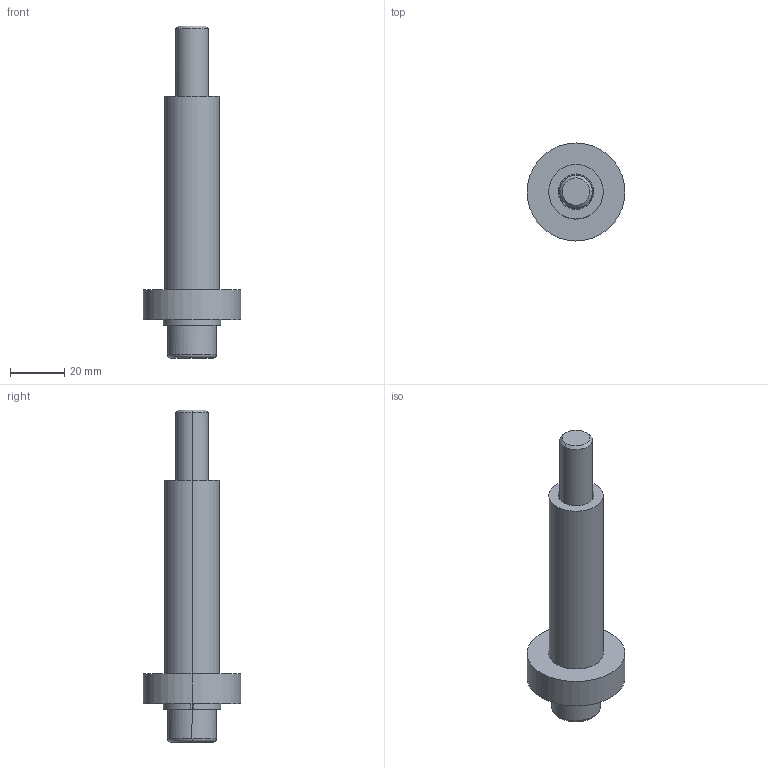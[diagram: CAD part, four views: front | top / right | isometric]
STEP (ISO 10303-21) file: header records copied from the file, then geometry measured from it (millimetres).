
FILE_DESCRIPTION(('CATIA V5 STEP Exchange'),'2;1');
FILE_NAME('C:\Users\Utente\Desktop\IO LAVORO\3D X SITO CF\X SITO\M312-08\M312-08-12.stp','2020-12-04T19:28:42+00:00',('none'),('none'),'CATIA Version 5 Release 20 GA (IN-10)','CATIA V5 STEP AP203','none');
FILE_SCHEMA(('CONFIG_CONTROL_DESIGN'));
Length unit declared in the file: millimetre
Products named in the file (1): M312-08-12
Assembly tree (1 placements, depth 2):
  M312-08-12
    #58
Bounding box: 36 x 36 x 122 mm (x, y, z)
Volume: 38005.8 mm3; surface area: 16422.8 mm2
Topology: 1 solids, 1 shells, 50 faces, 114 edges, 69 vertices
Faces by surface type: plane 22, cylinder 16, torus 8, cone 4
Entity records: 1660 total; most frequent: CARTESIAN_POINT 515, ORIENTED_EDGE 224, DIRECTION 201, EDGE_CURVE 112, AXIS2_PLACEMENT_3D 97, VERTEX_POINT 69, EDGE_LOOP 57, VECTOR 52
